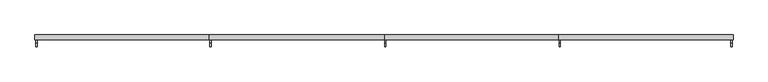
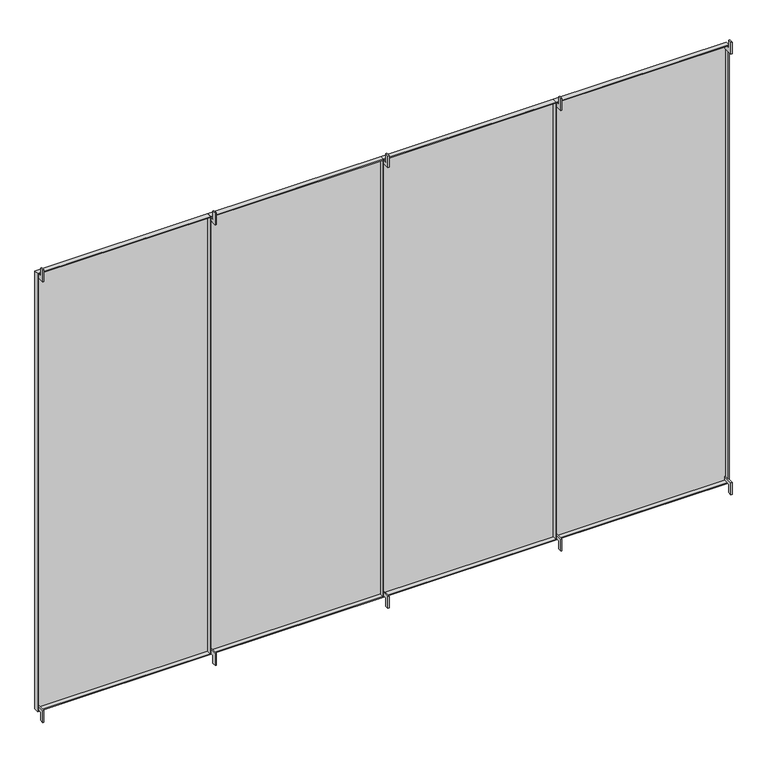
"""IFC4 building model written with IfcOpenShell, lengths in millimetres: furniture geometry, H04 Protección 4 módulos : H4.3 Protección 4 módulos 465x315."""

from ifc_helpers import new_model, si_unit, frame, origin, place, context, project, spatial, polyline, outline, extrude, source, transform, mapped, element, save


def furniture_bc23b5bf(model_context):
    return source(origin(), model_context, "Body", "SweptSolid", [
        extrude(outline(polyline([(3100.0, 44.7003264), (3100.0, -1092.7996736), (50.0, -1092.7996736), (50.0, 44.7003264), (3100.0, 44.7003264)]), holes=[polyline([(3093.0, 41.2003264), (57.0, 41.2003264), (57.0, -1089.2996736), (3093.0, -1089.2996736), (3093.0, 41.2003264)])]), frame((0.0, 568.0, 0.0), z_axis=(0.0, 1.0, 0.0), x_axis=(0.0, 0.0, 1.0)), (0.0, 0.0, 1.0), 32.0),
        extrude(outline(polyline([(2312.7003264, 600.0), (2312.7003264, 597.0), (1185.7003264, 597.0), (1185.7003264, 600.0), (2312.7003264, 600.0)])), frame((0.0, 0.0, 57.0), z_axis=(0.0, 0.0, 1.0), x_axis=(1.0, 0.0, 0.0)), (0.0, 0.0, 1.0), 3036.0),
        extrude(outline(polyline([(3100.0, 2319.7003264), (3100.0, 1182.2003264), (50.0, 1182.2003264), (50.0, 2319.7003264), (3100.0, 2319.7003264)]), holes=[polyline([(3093.0, 2312.7003264), (57.0, 2312.7003264), (57.0, 1185.7003264), (3093.0, 1185.7003264), (3093.0, 2312.7003264)])]), frame((0.0, 568.0, 0.0), z_axis=(0.0, 1.0, 0.0), x_axis=(0.0, 0.0, 1.0)), (0.0, 0.0, 1.0), 32.0),
        extrude(outline(polyline([(1178.7003264, 600.0), (1178.7003264, 597.0), (48.2003264, 597.0), (48.2003264, 600.0), (1178.7003264, 600.0)])), frame((0.0, 0.0, 57.0), z_axis=(0.0, 0.0, 1.0), x_axis=(1.0, 0.0, 0.0)), (0.0, 0.0, 1.0), 3036.0),
        extrude(outline(polyline([(3100.0, 1182.2003264), (3100.0, 44.7003264), (50.0, 44.7003264), (50.0, 1182.2003264), (3100.0, 1182.2003264)]), holes=[polyline([(3093.0, 1178.7003264), (57.0, 1178.7003264), (57.0, 48.2003264), (3093.0, 48.2003264), (3093.0, 1178.7003264)])]), frame((0.0, 568.0, 0.0), z_axis=(0.0, 1.0, 0.0), x_axis=(0.0, 0.0, 1.0)), (0.0, 0.0, 1.0), 32.0),
        extrude(outline(polyline([(41.2003264, 600.0), (41.2003264, 597.0), (-1089.2996736, 597.0), (-1089.2996736, 600.0), (41.2003264, 600.0)])), frame((0.0, 0.0, 57.0), z_axis=(0.0, 0.0, 1.0), x_axis=(1.0, 0.0, 0.0)), (0.0, 0.0, 1.0), 3036.0),
        extrude(outline(polyline([(-1096.2996736, 600.0), (-1096.2996736, 597.0), (-2223.2996736, 597.0), (-2223.2996736, 600.0), (-1096.2996736, 600.0)])), frame((0.0, 0.0, 57.0), z_axis=(0.0, 0.0, 1.0), x_axis=(1.0, 0.0, 0.0)), (0.0, 0.0, 1.0), 3036.0),
        extrude(outline(polyline([(3100.0, -1092.7996736), (3100.0, -2230.2996736), (50.0, -2230.2996736), (50.0, -1092.7996736), (3100.0, -1092.7996736)]), holes=[polyline([(3093.0, -1096.2996736), (57.0, -1096.2996736), (57.0, -2223.2996736), (3093.0, -2223.2996736), (3093.0, -1096.2996736)])]), frame((0.0, 568.0, 0.0), z_axis=(0.0, 1.0, 0.0), x_axis=(0.0, 0.0, 1.0)), (0.0, 0.0, 1.0), 32.0),
        extrude(outline(polyline([(522.0, 3068.0), (522.0, 3150.0), (547.0, 3150.0), (547.0, 3093.0), (597.0, 3093.0), (597.0, 3068.0), (522.0, 3068.0)])), frame((-2223.2996736, 0.0, 0.0), z_axis=(1.0, 0.0, 0.0), x_axis=(0.0, 1.0, 0.0)), (0.0, 0.0, 1.0), 7.0),
        extrude(outline(polyline([(522.0, 3068.0), (522.0, 3150.0), (547.0, 3150.0), (547.0, 3093.0), (597.0, 3093.0), (597.0, 3068.0), (522.0, 3068.0)])), frame((-1089.2996736, 0.0, 0.0), z_axis=(1.0, 0.0, 0.0), x_axis=(0.0, 1.0, 0.0)), (0.0, 0.0, 1.0), 7.0),
        extrude(outline(polyline([(522.0, 3068.0), (522.0, 3150.0), (547.0, 3150.0), (547.0, 3093.0), (597.0, 3093.0), (597.0, 3068.0), (522.0, 3068.0)])), frame((2305.7003264, 0.0, 0.0), z_axis=(1.0, 0.0, 0.0), x_axis=(0.0, 1.0, 0.0)), (0.0, 0.0, 1.0), 7.0),
        extrude(outline(polyline([(522.0, 3068.0), (522.0, 3150.0), (547.0, 3150.0), (547.0, 3093.0), (597.0, 3093.0), (597.0, 3068.0), (522.0, 3068.0)])), frame((1185.7003264, 0.0, 0.0), z_axis=(1.0, 0.0, 0.0), x_axis=(0.0, 1.0, 0.0)), (0.0, 0.0, 1.0), 7.0),
        extrude(outline(polyline([(522.0, 82.0), (597.0, 82.0), (597.0, 57.0), (547.0, 57.0), (547.0, 0.0), (522.0, 0.0), (522.0, 82.0)])), frame((2305.7003264, 0.0, 0.0), z_axis=(1.0, 0.0, 0.0), x_axis=(0.0, 1.0, 0.0)), (0.0, 0.0, 1.0), 7.0),
        extrude(outline(polyline([(522.0, 82.0), (597.0, 82.0), (597.0, 57.0), (547.0, 57.0), (547.0, 0.0), (522.0, 0.0), (522.0, 82.0)])), frame((1185.7003264, 0.0, 0.0), z_axis=(1.0, 0.0, 0.0), x_axis=(0.0, 1.0, 0.0)), (0.0, 0.0, 1.0), 7.0),
        extrude(outline(polyline([(522.0, 82.0), (597.0, 82.0), (597.0, 57.0), (547.0, 57.0), (547.0, 0.0), (522.0, 0.0), (522.0, 82.0)])), frame((-2223.2996736, 0.0, 0.0), z_axis=(1.0, 0.0, 0.0), x_axis=(0.0, 1.0, 0.0)), (0.0, 0.0, 1.0), 7.0),
        extrude(outline(polyline([(522.0, 82.0), (597.0, 82.0), (597.0, 57.0), (547.0, 57.0), (547.0, 0.0), (522.0, 0.0), (522.0, 82.0)])), frame((-1089.2996736, 0.0, 0.0), z_axis=(1.0, 0.0, 0.0), x_axis=(0.0, 1.0, 0.0)), (0.0, 0.0, 1.0), 7.0),
        extrude(outline(polyline([(522.0, 3068.0), (522.0, 3150.0), (547.0, 3150.0), (547.0, 3093.0), (597.0, 3093.0), (597.0, 3068.0), (522.0, 3068.0)])), frame((48.2003264, 0.0, 0.0), z_axis=(1.0, 0.0, 0.0), x_axis=(0.0, 1.0, 0.0)), (0.0, 0.0, 1.0), 7.0),
        extrude(outline(polyline([(522.0, 82.0), (597.0, 82.0), (597.0, 57.0), (547.0, 57.0), (547.0, 0.0), (522.0, 0.0), (522.0, 82.0)])), frame((48.2003264, 0.0, 0.0), z_axis=(1.0, 0.0, 0.0), x_axis=(0.0, 1.0, 0.0)), (0.0, 0.0, 1.0), 7.0),
    ])


if __name__ == "__main__":
    model = new_model("IFC4")
    model_context = context("Model", 3, world=origin())
    ifc_project = project(units=[si_unit("LENGTHUNIT", "METRE", prefix="MILLI")], contexts=[model_context])
    site = spatial("IfcSite", under=ifc_project)
    building = spatial("IfcBuilding", under=site)
    placement = place(None, origin())
    furniture_shape = furniture_bc23b5bf(model_context)
    element("IfcFurniture", 1, ObjectType="H04 Protección 4 módulos : H4.3 Protección 4 módulos 465x315", at=placement, inside=building, context=model_context, shape_type="MappedRepresentation", body=[
        mapped(furniture_shape, transform((0.0, 0.0, 0.0), x_axis=(1.0, 0.0, 0.0), y_axis=(0.0, 1.0, 0.0), z_axis=(0.0, 0.0, 1.0))),
    ])
    save(model, "model.ifc")
